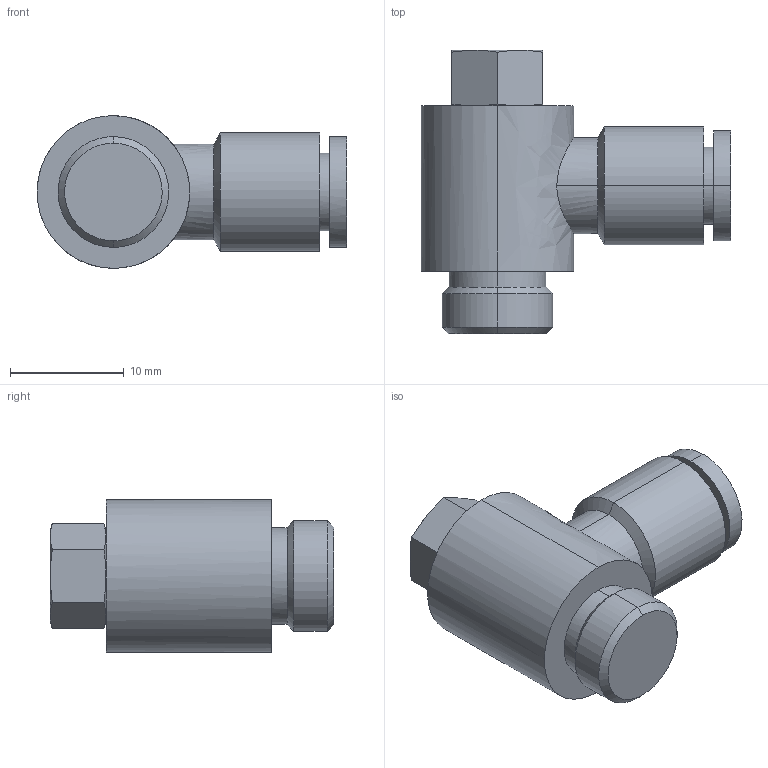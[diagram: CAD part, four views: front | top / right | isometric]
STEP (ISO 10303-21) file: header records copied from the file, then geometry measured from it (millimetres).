
FILE_DESCRIPTION (( 'STEP AP214' ), '1' );
FILE_NAME ('KQ2V06-G01A.STEP', '2023-03-09T03:02:23', ( 'Windows User' ), ( 'P R C' ), 'SwSTEP 2.0', 'SolidWorks 2019', '' );
FILE_SCHEMA (( 'AUTOMOTIVE_DESIGN' ));
Length unit declared in the file: millimetre
Products named in the file (1): KQ2V06-G01A
Bounding box: 27.2 x 24.9 x 13.4 mm (x, y, z)
Volume: 3374 mm3; surface area: 2024.2 mm2
Topology: 1 solids, 1 shells, 41 faces, 84 edges, 52 vertices
Faces by surface type: bspline 26, plane 15
Entity records: 1589 total; most frequent: CARTESIAN_POINT 989, ORIENTED_EDGE 168, EDGE_CURVE 84, B_SPLINE_CURVE_WITH_KNOTS 58, VERTEX_POINT 52, EDGE_LOOP 48, ADVANCED_FACE 41, FACE_OUTER_BOUND 41
